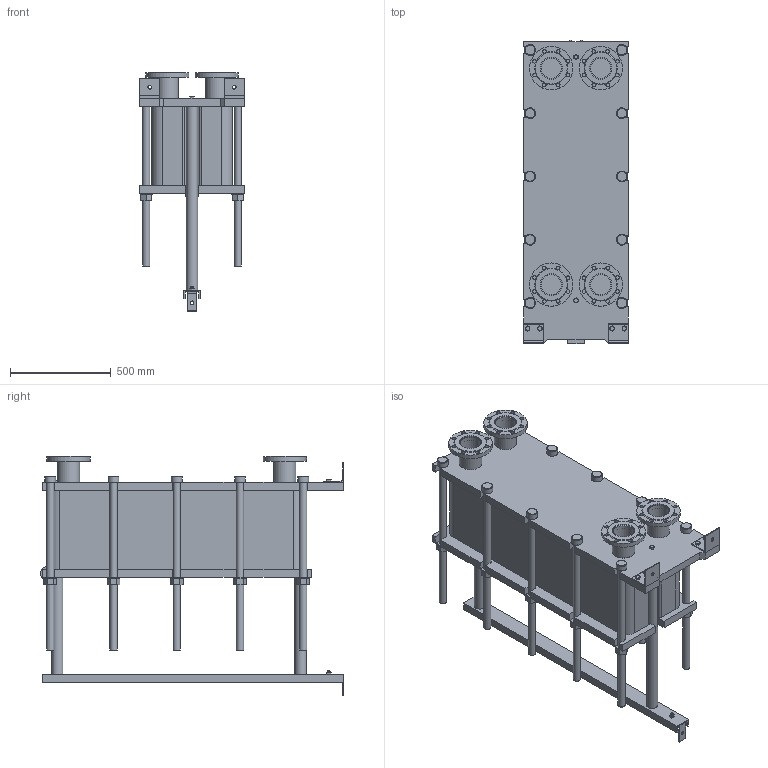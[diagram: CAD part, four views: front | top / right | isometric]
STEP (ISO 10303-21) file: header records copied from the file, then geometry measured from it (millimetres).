
FILE_DESCRIPTION(/* description */ (''),/* implementation_level */ '2;1');
FILE_NAME(/* name */ 'C:\Users\zhuro\Desktop\ENCO\TO\ЭН-04\ЭН-0,5-04-114-1.stp',/* time_stamp */ '2022-06-06T10:55:29+03:00',/* author */ ('zhuro'),/* organization */ (''),/* preprocessor_version */ 'ST-DEVELOPER v18.1',/* originating_system */ 'Autodesk Inventor 2022',/* authorisation */ '');
FILE_SCHEMA (('AUTOMOTIVE_DESIGN { 1 0 10303 214 3 1 1 }'));
Length unit declared in the file: millimetre
Products named in the file (1): ЭН-0,5-04-114-1
Bounding box: 520 x 1510 x 1192 mm (x, y, z)
Volume: 268513552.7 mm3; surface area: 8663123.3 mm2
Topology: 45 solids, 45 shells, 668 faces, 1611 edges, 1048 vertices
Faces by surface type: plane 457, cylinder 166, cone 39, torus 6
Full cylindrical faces by diameter (mm): 8 x4, 10 x2, 16 x8, 18 x35, 36 x25, 40 x2, 42 x1, 45 x4, 54 x10, 57 x2, 60 x10, 68 x2, 100 x4, 110 x8, 215 x4
Entity records: 23607 total; most frequent: CARTESIAN_POINT 7348, DIRECTION 3371, ORIENTED_EDGE 3142, EDGE_CURVE 1571, AXIS2_PLACEMENT_3D 1199, VERTEX_POINT 1044, LINE 973, VECTOR 973
